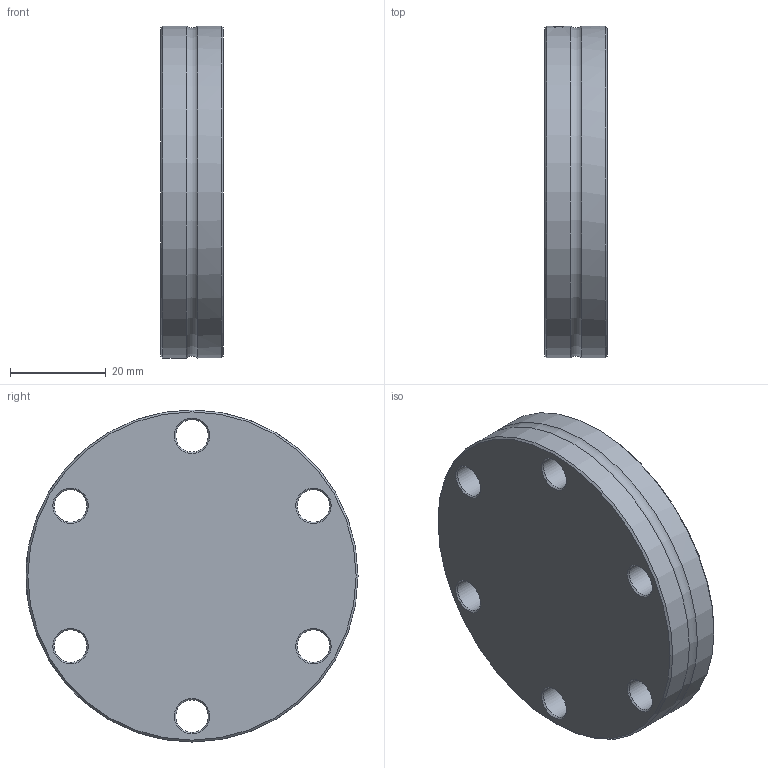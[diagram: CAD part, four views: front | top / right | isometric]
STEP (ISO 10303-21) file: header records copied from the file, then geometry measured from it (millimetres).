
FILE_DESCRIPTION((''),'2;1');
FILE_NAME('W:\13785_CF_Global_Fit_Umsetzung\001_Blank_Flange\M213-102.stp','2010-09-01T09:39:54',('KAA'),(''),'Autodesk Inventor 2011','Autodesk Inventor 2011','');
FILE_SCHEMA(('AUTOMOTIVE_DESIGN { 1 0 10303 214 1 1 1 1 }'));
Length unit declared in the file: millimetre
Products named in the file (1): 213-102
Bounding box: 13 x 69.5 x 69.5 mm (x, y, z)
Volume: 43880.2 mm3; surface area: 11806 mm2
Topology: 1 solids, 1 shells, 126 faces, 331 edges, 216 vertices
Faces by surface type: plane 50, bspline 35, cone 19, cylinder 18, torus 4
Full cylindrical faces by diameter (mm): 6.8 x6, 69.5 x2
Entity records: 12840 total; most frequent: CARTESIAN_POINT 10129, ORIENTED_EDGE 584, DIRECTION 422, EDGE_CURVE 292, VERTEX_POINT 207, EDGE_LOOP 177, AXIS2_PLACEMENT_3D 157, FACE_OUTER_BOUND 126
